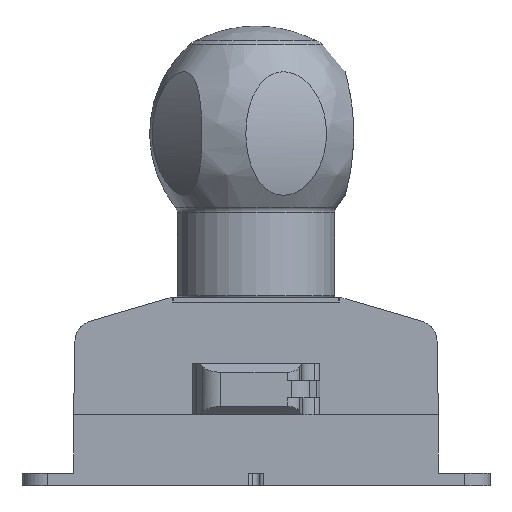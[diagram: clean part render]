
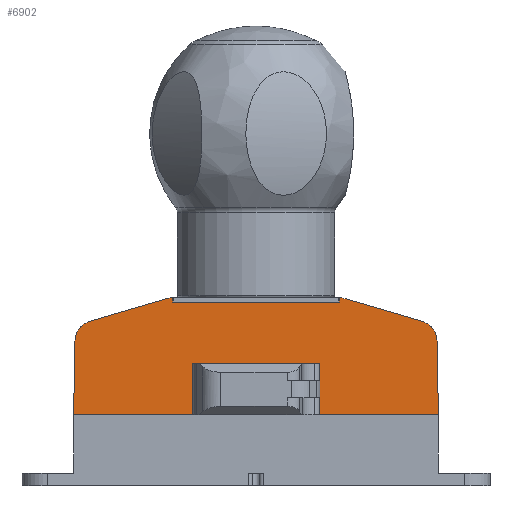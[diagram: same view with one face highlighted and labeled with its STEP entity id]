
A CAD part, left-side view. The second image highlights one B-rep face of the part: STEP entity #6902.
In plain terms, the highlighted planar face has unit normal (-1, 0, 0).
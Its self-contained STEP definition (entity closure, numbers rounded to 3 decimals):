
#6477=CARTESIAN_POINT('',(-0.2,-15.,16.7));
#6478=VERTEX_POINT('',#6477);
#6479=CARTESIAN_POINT('',(-0.2,-15.,28.7));
#6480=VERTEX_POINT('',#6479);
#6481=CARTESIAN_POINT('',(-0.2,-15.,16.7));
#6482=DIRECTION('',(0.0,0.0,1.0));
#6483=VECTOR('',#6482,12.);
#6484=LINE('',#6481,#6483);
#6485=EDGE_CURVE('',#6478,#6480,#6484,.T.);
#6513=CARTESIAN_POINT('',(-0.2,-42.867,16.7));
#6514=VERTEX_POINT('',#6513);
#6521=CARTESIAN_POINT('',(-0.2,-15.,16.7));
#6522=DIRECTION('',(0.0,-1.0,0.0));
#6523=VECTOR('',#6522,27.867);
#6524=LINE('',#6521,#6523);
#6525=EDGE_CURVE('',#6478,#6514,#6524,.T.);
#6540=CARTESIAN_POINT('',(-0.2,15.,16.7));
#6541=VERTEX_POINT('',#6540);
#6548=CARTESIAN_POINT('',(-0.2,42.867,16.7));
#6549=VERTEX_POINT('',#6548);
#6550=CARTESIAN_POINT('',(-0.2,42.867,16.7));
#6551=DIRECTION('',(0.0,-1.0,0.0));
#6552=VECTOR('',#6551,27.867);
#6553=LINE('',#6550,#6552);
#6554=EDGE_CURVE('',#6549,#6541,#6553,.T.);
#6570=CARTESIAN_POINT('',(-0.2,15.,28.7));
#6571=VERTEX_POINT('',#6570);
#6572=CARTESIAN_POINT('',(-0.2,15.,28.7));
#6573=DIRECTION('',(0.0,0.0,-1.0));
#6574=VECTOR('',#6573,12.0);
#6575=LINE('',#6572,#6574);
#6576=EDGE_CURVE('',#6571,#6541,#6575,.T.);
#6795=CARTESIAN_POINT('',(-0.2,20.282,20.597));
#6796=DIRECTION('',(-1.0,0.0,0.0));
#6797=DIRECTION('',(0.0,-1.0,0.0));
#6798=AXIS2_PLACEMENT_3D('',#6795,#6796,#6797);
#6799=PLANE('',#6798);
#6800=CARTESIAN_POINT('',(-0.2,-15.,28.7));
#6801=DIRECTION('',(0.0,1.0,0.0));
#6802=VECTOR('',#6801,30.);
#6803=LINE('',#6800,#6802);
#6804=EDGE_CURVE('',#6480,#6571,#6803,.T.);
#6805=ORIENTED_EDGE('',*,*,#6804,.F.);
#6806=ORIENTED_EDGE('',*,*,#6485,.F.);
#6807=ORIENTED_EDGE('',*,*,#6525,.T.);
#6808=CARTESIAN_POINT('',(-0.2,-42.564,34.02));
#6809=VERTEX_POINT('',#6808);
#6810=CARTESIAN_POINT('',(-0.2,-42.564,34.02));
#6811=DIRECTION('',(0.,-0.017,-1.));
#6812=VECTOR('',#6811,17.323);
#6813=LINE('',#6810,#6812);
#6814=EDGE_CURVE('',#6809,#6514,#6813,.T.);
#6815=ORIENTED_EDGE('',*,*,#6814,.F.);
#6816=CARTESIAN_POINT('',(-0.2,-38.967,38.732));
#6817=VERTEX_POINT('',#6816);
#6818=CARTESIAN_POINT('',(-0.2,-37.565,33.933));
#6819=DIRECTION('',(1.0,0.,0.));
#6820=DIRECTION('',(0.,-0.795,0.607));
#6821=AXIS2_PLACEMENT_3D('',#6818,#6819,#6820);
#6822=CIRCLE('',#6821,5.0);
#6823=EDGE_CURVE('',#6817,#6809,#6822,.T.);
#6824=ORIENTED_EDGE('',*,*,#6823,.F.);
#6825=CARTESIAN_POINT('',(-0.2,-20.937,43.999));
#6826=VERTEX_POINT('',#6825);
#6827=CARTESIAN_POINT('',(-0.2,-20.937,43.999));
#6828=DIRECTION('',(0.,-0.96,-0.28));
#6829=VECTOR('',#6828,18.784);
#6830=LINE('',#6827,#6829);
#6831=EDGE_CURVE('',#6826,#6817,#6830,.T.);
#6832=ORIENTED_EDGE('',*,*,#6831,.F.);
#6833=CARTESIAN_POINT('',(-0.2,-19.535,44.2));
#6834=VERTEX_POINT('',#6833);
#6835=CARTESIAN_POINT('',(-0.2,-19.535,39.2));
#6836=DIRECTION('',(1.0,0.,0.));
#6837=DIRECTION('',(0.,-0.142,0.99));
#6838=AXIS2_PLACEMENT_3D('',#6835,#6836,#6837);
#6839=CIRCLE('',#6838,5.0);
#6840=EDGE_CURVE('',#6834,#6826,#6839,.T.);
#6841=ORIENTED_EDGE('',*,*,#6840,.F.);
#6842=CARTESIAN_POINT('',(-0.2,-19.535,43.2));
#6843=VERTEX_POINT('',#6842);
#6844=CARTESIAN_POINT('',(-0.2,-19.535,44.2));
#6845=DIRECTION('',(0.0,0.0,-1.0));
#6846=VECTOR('',#6845,1.0);
#6847=LINE('',#6844,#6846);
#6848=EDGE_CURVE('',#6834,#6843,#6847,.T.);
#6849=ORIENTED_EDGE('',*,*,#6848,.T.);
#6850=CARTESIAN_POINT('',(-0.2,19.535,43.2));
#6851=VERTEX_POINT('',#6850);
#6852=CARTESIAN_POINT('',(-0.2,-19.535,43.2));
#6853=DIRECTION('',(0.0,1.0,0.0));
#6854=VECTOR('',#6853,39.069);
#6855=LINE('',#6852,#6854);
#6856=EDGE_CURVE('',#6843,#6851,#6855,.T.);
#6857=ORIENTED_EDGE('',*,*,#6856,.T.);
#6858=CARTESIAN_POINT('',(-0.2,19.535,44.2));
#6859=VERTEX_POINT('',#6858);
#6860=CARTESIAN_POINT('',(-0.2,19.535,43.2));
#6861=DIRECTION('',(0.0,0.0,1.0));
#6862=VECTOR('',#6861,1.0);
#6863=LINE('',#6860,#6862);
#6864=EDGE_CURVE('',#6851,#6859,#6863,.T.);
#6865=ORIENTED_EDGE('',*,*,#6864,.T.);
#6866=CARTESIAN_POINT('',(-0.2,20.937,43.999));
#6867=VERTEX_POINT('',#6866);
#6868=CARTESIAN_POINT('',(-0.2,19.535,39.2));
#6869=DIRECTION('',(1.0,0.,0.));
#6870=DIRECTION('',(0.,0.142,0.99));
#6871=AXIS2_PLACEMENT_3D('',#6868,#6869,#6870);
#6872=CIRCLE('',#6871,5.0);
#6873=EDGE_CURVE('',#6867,#6859,#6872,.T.);
#6874=ORIENTED_EDGE('',*,*,#6873,.F.);
#6875=CARTESIAN_POINT('',(-0.2,38.967,38.732));
#6876=VERTEX_POINT('',#6875);
#6877=CARTESIAN_POINT('',(-0.2,20.937,43.999));
#6878=DIRECTION('',(0.,0.96,-0.28));
#6879=VECTOR('',#6878,18.784);
#6880=LINE('',#6877,#6879);
#6881=EDGE_CURVE('',#6867,#6876,#6880,.T.);
#6882=ORIENTED_EDGE('',*,*,#6881,.T.);
#6883=CARTESIAN_POINT('',(-0.2,42.564,34.02));
#6884=VERTEX_POINT('',#6883);
#6885=CARTESIAN_POINT('',(-0.2,37.565,33.933));
#6886=DIRECTION('',(1.0,0.,0.));
#6887=DIRECTION('',(0.,0.795,0.607));
#6888=AXIS2_PLACEMENT_3D('',#6885,#6886,#6887);
#6889=CIRCLE('',#6888,5.0);
#6890=EDGE_CURVE('',#6884,#6876,#6889,.T.);
#6891=ORIENTED_EDGE('',*,*,#6890,.F.);
#6892=CARTESIAN_POINT('',(-0.2,42.867,16.7));
#6893=DIRECTION('',(0.,-0.017,1.));
#6894=VECTOR('',#6893,17.323);
#6895=LINE('',#6892,#6894);
#6896=EDGE_CURVE('',#6884,#6549,#6895,.F.);
#6897=ORIENTED_EDGE('',*,*,#6896,.T.);
#6898=ORIENTED_EDGE('',*,*,#6554,.T.);
#6899=ORIENTED_EDGE('',*,*,#6576,.F.);
#6900=EDGE_LOOP('',(#6805,#6806,#6807,#6815,#6824,#6832,#6841,#6849,#6857,#6865,#6874,#6882,#6891,#6897,#6898,#6899));
#6901=FACE_OUTER_BOUND('',#6900,.T.);
#6902=ADVANCED_FACE('',(#6901),#6799,.T.);
